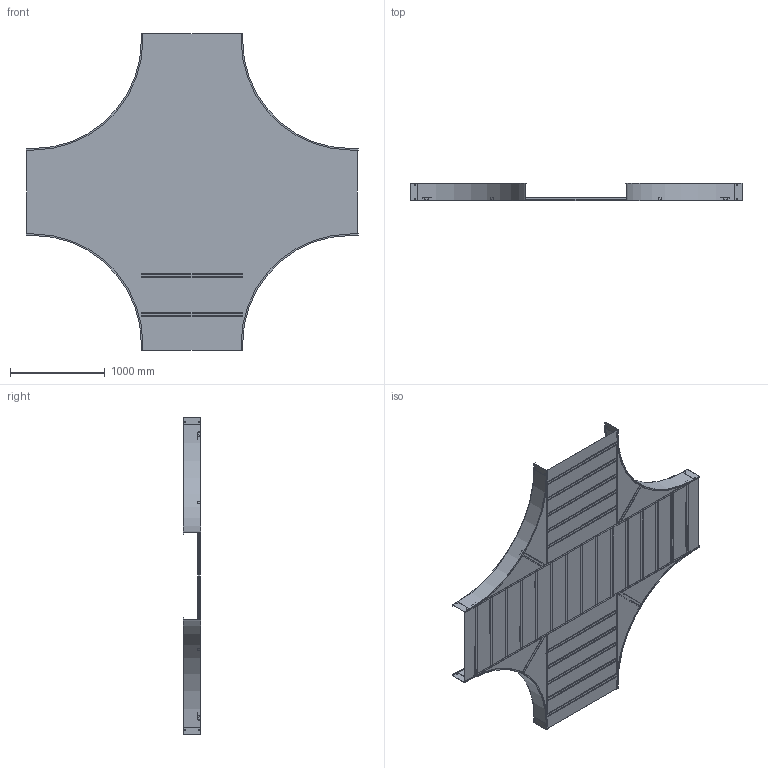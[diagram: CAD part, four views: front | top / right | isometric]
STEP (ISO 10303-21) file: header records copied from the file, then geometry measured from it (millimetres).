
FILE_DESCRIPTION((''),'2;1');
FILE_NAME('AUF73642SEX48_ASM','2010-02-02T',('erouzier'),(''),'PRO/ENGINEER BY PARAMETRIC TECHNOLOGY CORPORATION, 2008510','PRO/ENGINEER BY PARAMETRIC TECHNOLOGY CORPORATION, 2008510','');
FILE_SCHEMA(('CONFIG_CONTROL_DESIGN'));
Length unit declared in the file: inch
Products named in the file (29): CDS001322-7-90-45-I; CDS002159L36_AF15; CDS002159L36_AF16; CDS002159L36_AF17; CDS002159L36_AF18; CDS002159L36_AF24; CDS002159L36_AF26; CDS002159L36_AF28; CDS002159L36_AF19; CDS002159L36_AF20; CDS002159L36_AF21; CDS002159L36_AF23; CDS002159L36_AF25; CDS002159L36_AF27; CDS002159L36_AF29; CDS002159L36_AF22; CDS000495_GEN_AF18; CDS000495_GEN_AF19; CDS000495_GEN_AF22; CDS000495_GEN_AF23; CDS000495_GEN_AF20; CDS000495_GEN_AF21; CDS002159L24_AF6; CDS002159L24_AF7; CDS002159L24_AF4; CDS002159L24_AF5; CDS002159L42; CDS005034-36-48-42; AUF73642SEX48_ASM
Assembly tree (40 placements, depth 2):
  AUF73642SEX48_ASM
    CDS001322-7-90-45-I  x4
    CDS002159L36_AF15
    CDS002159L36_AF16
    CDS002159L36_AF17
    CDS002159L36_AF18
    CDS002159L36_AF24
    CDS002159L36_AF26
    CDS002159L36_AF28
    CDS002159L36_AF19
    CDS002159L36_AF20
    CDS002159L36_AF21
    CDS002159L36_AF23
    CDS002159L36_AF25
    CDS002159L36_AF27
    CDS002159L36_AF29
    CDS002159L36_AF22
    CDS000495_GEN_AF18
    CDS000495_GEN_AF19
    CDS000495_GEN_AF22
    CDS000495_GEN_AF23
    CDS000495_GEN_AF20
    CDS000495_GEN_AF21
    CDS002159L24_AF6
    CDS002159L24_AF7
    CDS002159L24_AF4
    CDS002159L24_AF5
    CDS002159L42  x10
    CDS005034-36-48-42
Bounding box: 3510.79 x 183.9 x 3358.39 mm (x, y, z)
Volume: 17017016.1 mm3; surface area: 24803309.3 mm2
Topology: 40 solids, 40 shells, 1084 faces, 3012 edges, 2008 vertices
Faces by surface type: plane 745, cylinder 339
Entity records: 23639 total; most frequent: CARTESIAN_POINT 4373, ORIENTED_EDGE 3936, DIRECTION 3898, EDGE_CURVE 1968, VECTOR 1512, LINE 1512, VERTEX_POINT 1312, AXIS2_PLACEMENT_3D 1193
